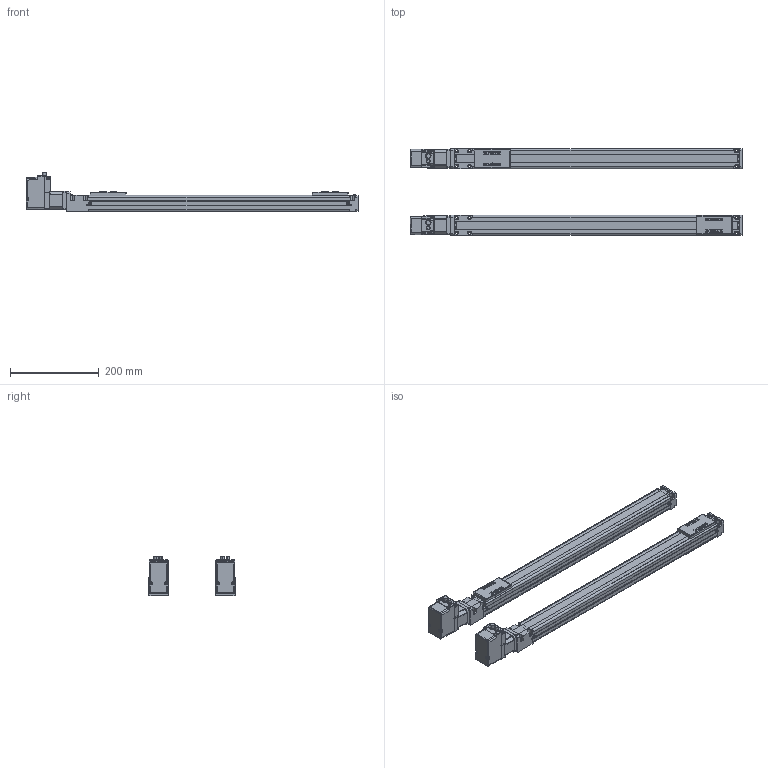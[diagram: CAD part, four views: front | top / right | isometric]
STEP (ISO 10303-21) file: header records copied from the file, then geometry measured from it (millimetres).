
FILE_DESCRIPTION(('STEP AP214'),'1');
FILE_NAME('D:\図面\3D\SCLT4\tmp0.step',' ',(' '),(' '),'XStep 1.0',' ',' ');
FILE_SCHEMA(('automotive_design'));
Length unit declared in the file: millimetre
Products named in the file (30): VLAST45-06-0500-0-0N (0) (500)|_VLA-ST-45-12-0500 Body;_VLA-ST-45-12-0500 Body; VLAST45-06-0500-0-0N (0) (500)|_VLA-ST-45-12-0050 Slider;_VLA-ST-45-12-0050 Slider; 3; 1; 12; 2; 13; 9; 4; 11; 10; 14
Bounding box: 747 x 195 x 88.5 mm (x, y, z)
Volume: 1093953.7 mm3; surface area: 575561 mm2
Topology: 30 solids, 30 shells, 2180 faces, 5760 edges, 3644 vertices
Faces by surface type: plane 1124, cylinder 732, cone 236, torus 68, sphere 12, bspline 8
Entity records: 86411 total; most frequent: CARTESIAN_POINT 13346, DIRECTION 11624, ORIENTED_EDGE 11432, EDGE_CURVE 5716, AXIS2_PLACEMENT_3D 3930, LINE 3764, VECTOR 3764, VERTEX_POINT 3644
